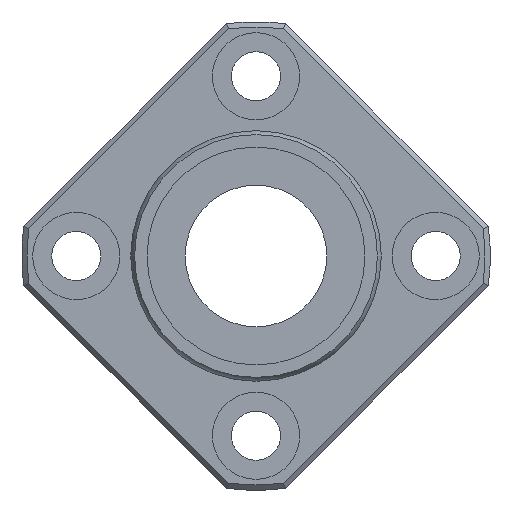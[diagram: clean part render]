
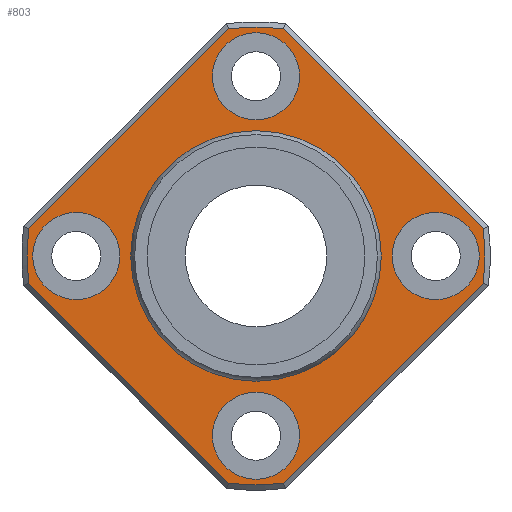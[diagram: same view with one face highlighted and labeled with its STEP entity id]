
A CAD part, left-side view. The second image highlights one B-rep face of the part: STEP entity #803.
In plain terms, the highlighted planar face has unit normal (-1, 0, 0).
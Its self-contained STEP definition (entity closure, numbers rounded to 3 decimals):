
#498=CARTESIAN_POINT('',(27.0,-2.482,-20.853));
#499=VERTEX_POINT('',#498);
#507=CARTESIAN_POINT('',(27.0,2.482,-20.853));
#508=VERTEX_POINT('',#507);
#509=CARTESIAN_POINT('',(27.0,0.0,0.0));
#510=DIRECTION('',(1.0,0.0,0.0));
#511=DIRECTION('',(0.0,0.0,-1.0));
#512=AXIS2_PLACEMENT_3D('',#509,#510,#511);
#513=CIRCLE('',#512,21.);
#514=EDGE_CURVE('',#499,#508,#513,.T.);
#540=CARTESIAN_POINT('',(27.0,20.853,-2.482));
#541=VERTEX_POINT('',#540);
#542=CARTESIAN_POINT('',(27.0,2.482,-20.853));
#543=DIRECTION('',(0.0,0.707,0.707));
#544=VECTOR('',#543,25.981);
#545=LINE('',#542,#544);
#546=EDGE_CURVE('',#508,#541,#545,.T.);
#573=CARTESIAN_POINT('',(27.0,20.853,2.482));
#574=VERTEX_POINT('',#573);
#575=CARTESIAN_POINT('',(27.0,0.0,0.0));
#576=DIRECTION('',(1.0,0.0,0.0));
#577=DIRECTION('',(0.0,0.0,1.0));
#578=AXIS2_PLACEMENT_3D('',#575,#576,#577);
#579=CIRCLE('',#578,21.);
#580=EDGE_CURVE('',#541,#574,#579,.T.);
#604=CARTESIAN_POINT('',(27.0,2.482,20.853));
#605=VERTEX_POINT('',#604);
#606=CARTESIAN_POINT('',(27.0,20.853,2.482));
#607=DIRECTION('',(0.0,-0.707,0.707));
#608=VECTOR('',#607,25.981);
#609=LINE('',#606,#608);
#610=EDGE_CURVE('',#574,#605,#609,.T.);
#629=CARTESIAN_POINT('',(27.0,-2.482,20.853));
#630=VERTEX_POINT('',#629);
#631=CARTESIAN_POINT('',(27.0,0.0,0.0));
#632=DIRECTION('',(1.0,0.0,0.0));
#633=DIRECTION('',(0.0,0.0,1.0));
#634=AXIS2_PLACEMENT_3D('',#631,#632,#633);
#635=CIRCLE('',#634,21.);
#636=EDGE_CURVE('',#605,#630,#635,.T.);
#655=CARTESIAN_POINT('',(27.0,-20.853,2.482));
#656=VERTEX_POINT('',#655);
#657=CARTESIAN_POINT('',(27.0,-2.482,20.853));
#658=DIRECTION('',(0.0,-0.707,-0.707));
#659=VECTOR('',#658,25.981);
#660=LINE('',#657,#659);
#661=EDGE_CURVE('',#630,#656,#660,.T.);
#680=CARTESIAN_POINT('',(27.0,-20.853,-2.482));
#681=VERTEX_POINT('',#680);
#682=CARTESIAN_POINT('',(27.0,0.0,0.0));
#683=DIRECTION('',(1.0,0.0,0.0));
#684=DIRECTION('',(0.0,0.0,1.0));
#685=AXIS2_PLACEMENT_3D('',#682,#683,#684);
#686=CIRCLE('',#685,21.);
#687=EDGE_CURVE('',#656,#681,#686,.T.);
#706=CARTESIAN_POINT('',(27.0,-20.853,-2.482));
#707=DIRECTION('',(0.0,0.707,-0.707));
#708=VECTOR('',#707,25.981);
#709=LINE('',#706,#708);
#710=EDGE_CURVE('',#681,#499,#709,.T.);
#733=CARTESIAN_POINT('',(27.0,0.0,16.393));
#734=DIRECTION('',(-1.0,0.0,0.0));
#735=DIRECTION('',(0.0,0.0,1.0));
#736=AXIS2_PLACEMENT_3D('',#733,#734,#735);
#737=PLANE('',#736);
#738=ORIENTED_EDGE('',*,*,#514,.F.);
#739=ORIENTED_EDGE('',*,*,#710,.F.);
#740=ORIENTED_EDGE('',*,*,#687,.F.);
#741=ORIENTED_EDGE('',*,*,#661,.F.);
#742=ORIENTED_EDGE('',*,*,#636,.F.);
#743=ORIENTED_EDGE('',*,*,#610,.F.);
#744=ORIENTED_EDGE('',*,*,#580,.F.);
#745=ORIENTED_EDGE('',*,*,#546,.F.);
#746=EDGE_LOOP('',(#738,#739,#740,#741,#742,#743,#744,#745));
#747=FACE_OUTER_BOUND('',#746,.T.);
#748=CARTESIAN_POINT('',(27.0,0.0,11.286));
#749=VERTEX_POINT('',#748);
#750=CARTESIAN_POINT('',(27.0,0.0,0.0));
#751=DIRECTION('',(-1.0,0.0,0.0));
#752=DIRECTION('',(0.0,0.0,1.0));
#753=AXIS2_PLACEMENT_3D('',#750,#751,#752);
#754=CIRCLE('',#753,11.286);
#755=EDGE_CURVE('',#749,#749,#754,.T.);
#756=ORIENTED_EDGE('',*,*,#755,.F.);
#757=EDGE_LOOP('',(#756));
#758=FACE_BOUND('',#757,.T.);
#759=CARTESIAN_POINT('',(27.0,-12.5,0.));
#760=VERTEX_POINT('',#759);
#761=CARTESIAN_POINT('',(27.0,-16.5,0.));
#762=DIRECTION('',(1.0,0.0,0.0));
#763=DIRECTION('',(0.0,1.0,0.0));
#764=AXIS2_PLACEMENT_3D('',#761,#762,#763);
#765=CIRCLE('',#764,4.0);
#766=EDGE_CURVE('',#760,#760,#765,.T.);
#767=ORIENTED_EDGE('',*,*,#766,.T.);
#768=EDGE_LOOP('',(#767));
#769=FACE_BOUND('',#768,.T.);
#770=CARTESIAN_POINT('',(27.0,20.5,0.));
#771=VERTEX_POINT('',#770);
#772=CARTESIAN_POINT('',(27.0,16.5,0.));
#773=DIRECTION('',(1.0,0.0,0.0));
#774=DIRECTION('',(0.0,1.0,0.0));
#775=AXIS2_PLACEMENT_3D('',#772,#773,#774);
#776=CIRCLE('',#775,4.0);
#777=EDGE_CURVE('',#771,#771,#776,.T.);
#778=ORIENTED_EDGE('',*,*,#777,.T.);
#779=EDGE_LOOP('',(#778));
#780=FACE_BOUND('',#779,.T.);
#781=CARTESIAN_POINT('',(27.0,4.,16.5));
#782=VERTEX_POINT('',#781);
#783=CARTESIAN_POINT('',(27.0,0.,16.5));
#784=DIRECTION('',(1.0,0.0,0.0));
#785=DIRECTION('',(0.0,1.0,0.0));
#786=AXIS2_PLACEMENT_3D('',#783,#784,#785);
#787=CIRCLE('',#786,4.0);
#788=EDGE_CURVE('',#782,#782,#787,.T.);
#789=ORIENTED_EDGE('',*,*,#788,.T.);
#790=EDGE_LOOP('',(#789));
#791=FACE_BOUND('',#790,.T.);
#792=CARTESIAN_POINT('',(27.0,4.,-16.5));
#793=VERTEX_POINT('',#792);
#794=CARTESIAN_POINT('',(27.0,0.,-16.5));
#795=DIRECTION('',(1.0,0.0,0.0));
#796=DIRECTION('',(0.0,1.0,0.0));
#797=AXIS2_PLACEMENT_3D('',#794,#795,#796);
#798=CIRCLE('',#797,4.0);
#799=EDGE_CURVE('',#793,#793,#798,.T.);
#800=ORIENTED_EDGE('',*,*,#799,.T.);
#801=EDGE_LOOP('',(#800));
#802=FACE_BOUND('',#801,.T.);
#803=ADVANCED_FACE('',(#747,#758,#769,#780,#791,#802),#737,.T.);
